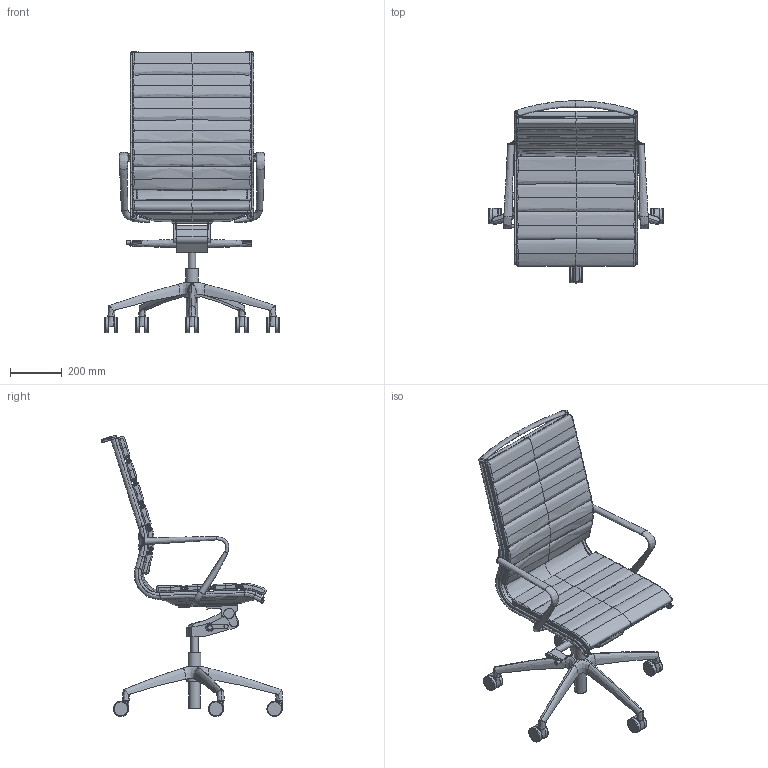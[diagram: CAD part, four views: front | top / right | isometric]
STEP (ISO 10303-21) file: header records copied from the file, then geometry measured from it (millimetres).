
FILE_DESCRIPTION(/* description */ (''),/* implementation_level */ '2;1');
FILE_NAME(/* name */ 'PL5D9A~1',/* time_stamp */ '2018-04-10T15:07:26+02:00',/* author */ (''),/* organization */ (''),/* preprocessor_version */ 'ST-DEVELOPER v16.5',/* originating_system */ '',/* authorisation */ '');
FILE_SCHEMA (('AUTOMOTIVE_DESIGN'));
Length unit declared in the file: millimetre
Products named in the file (1): Document
Bounding box: 677.7 x 706.27 x 1092.2 mm (x, y, z)
Volume: 18844573.7 mm3; surface area: 3079559.4 mm2
Topology: 24 solids, 58 shells, 845 faces, 2146 edges, 1359 vertices
Faces by surface type: bspline 715, plane 130
Entity records: 78493 total; most frequent: CARTESIAN_POINT 65626, ORIENTED_EDGE 4051, EDGE_CURVE 2123, B_SPLINE_CURVE_WITH_KNOTS 1550, VERTEX_POINT 1353, EDGE_LOOP 849, ADVANCED_FACE 845, FACE_OUTER_BOUND 845
